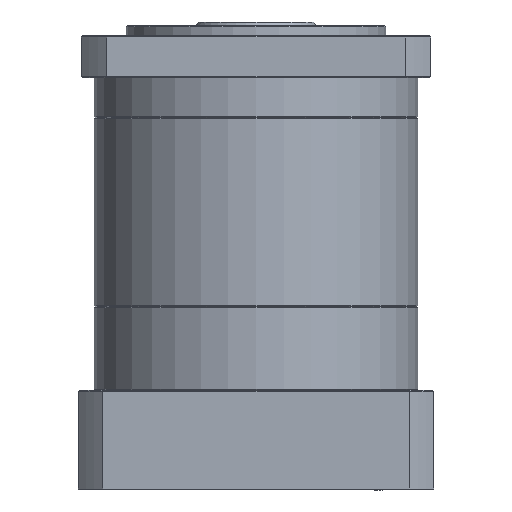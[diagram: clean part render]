
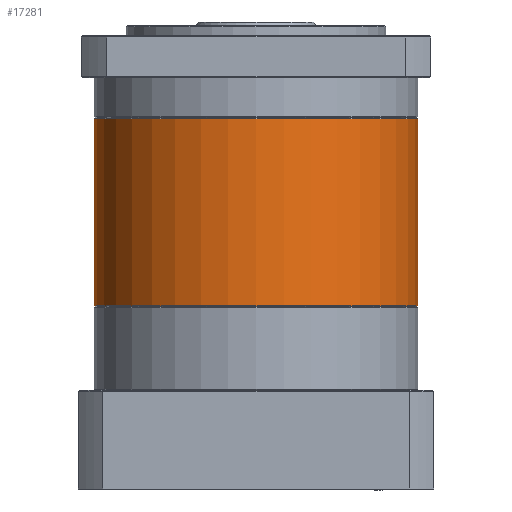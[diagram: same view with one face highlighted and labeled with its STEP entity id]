
A CAD part, front view. The second image highlights one B-rep face of the part: STEP entity #17281.
In plain terms, the highlighted cylindrical face has radius 81 mm (diameter 162 mm), a partial arc.
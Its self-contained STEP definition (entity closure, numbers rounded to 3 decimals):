
#5611 = DIRECTION ( 'NONE',  ( 0., 0., 1. ) ) ;
#8676 = DIRECTION ( 'NONE',  ( 0., 0., -1. ) ) ;
#14450 = DIRECTION ( 'NONE',  ( 0., 0., 1. ) ) ;
#15478 = CARTESIAN_POINT ( 'NONE',  ( 175.484, 78.843, 44.918 ) ) ;
#16433 = EDGE_CURVE ( 'NONE', #97917, #88166, #67373, .T. ) ;
#17161 = EDGE_CURVE ( 'NONE', #88869, #97917, #23615, .T. ) ;
#17281 = ADVANCED_FACE ( 'NONE', ( #28420 ), #70867, .T. ) ;
#17682 = AXIS2_PLACEMENT_3D ( 'NONE', #62768, #8676, #77364 ) ;
#22174 = EDGE_CURVE ( 'NONE', #88869, #50249, #69613, .T. ) ;
#23615 = CIRCLE ( 'NONE', #79401, 81. ) ;
#24546 = CIRCLE ( 'NONE', #17682, 81. ) ;
#25538 = CARTESIAN_POINT ( 'NONE',  ( 256.484, 78.843, 138.918 ) ) ;
#28420 = FACE_OUTER_BOUND ( 'NONE', #77661, .T. ) ;
#28742 = DIRECTION ( 'NONE',  ( 1., 0., 0. ) ) ;
#35362 = CARTESIAN_POINT ( 'NONE',  ( 94.484, 78.843, 45.418 ) ) ;
#35685 = VECTOR ( 'NONE', #5611, 1000. ) ;
#38305 = DIRECTION ( 'NONE',  ( 1., 0., 0. ) ) ;
#40036 = EDGE_CURVE ( 'NONE', #88166, #50249, #24546, .T. ) ;
#44026 = DIRECTION ( 'NONE',  ( 0., 0., 1. ) ) ;
#49158 = CARTESIAN_POINT ( 'NONE',  ( 94.484, 78.843, 138.918 ) ) ;
#50249 = VERTEX_POINT ( 'NONE', #49158 ) ;
#50954 = DIRECTION ( 'NONE',  ( 0., 0., 1. ) ) ;
#53046 = ORIENTED_EDGE ( 'NONE', *, *, #17161, .T. ) ;
#59187 = CARTESIAN_POINT ( 'NONE',  ( 256.484, 78.843, 45.418 ) ) ;
#62768 = CARTESIAN_POINT ( 'NONE',  ( 175.484, 78.843, 138.918 ) ) ;
#64552 = CARTESIAN_POINT ( 'NONE',  ( 256.484, 78.843, 44.918 ) ) ;
#67373 = LINE ( 'NONE', #64552, #77112 ) ;
#69613 = LINE ( 'NONE', #83719, #35685 ) ;
#70318 = AXIS2_PLACEMENT_3D ( 'NONE', #15478, #14450, #38305 ) ;
#70867 = CYLINDRICAL_SURFACE ( 'NONE', #70318, 81. ) ;
#77112 = VECTOR ( 'NONE', #50954, 1000. ) ;
#77364 = DIRECTION ( 'NONE',  ( 1., 0., 0. ) ) ;
#77661 = EDGE_LOOP ( 'NONE', ( #81579, #53046, #100081, #92200 ) ) ;
#79401 = AXIS2_PLACEMENT_3D ( 'NONE', #81363, #44026, #28742 ) ;
#81363 = CARTESIAN_POINT ( 'NONE',  ( 175.484, 78.843, 45.418 ) ) ;
#81579 = ORIENTED_EDGE ( 'NONE', *, *, #22174, .F. ) ;
#83719 = CARTESIAN_POINT ( 'NONE',  ( 94.484, 78.843, 44.918 ) ) ;
#88166 = VERTEX_POINT ( 'NONE', #25538 ) ;
#88869 = VERTEX_POINT ( 'NONE', #35362 ) ;
#92200 = ORIENTED_EDGE ( 'NONE', *, *, #40036, .T. ) ;
#97917 = VERTEX_POINT ( 'NONE', #59187 ) ;
#100081 = ORIENTED_EDGE ( 'NONE', *, *, #16433, .T. ) ;
